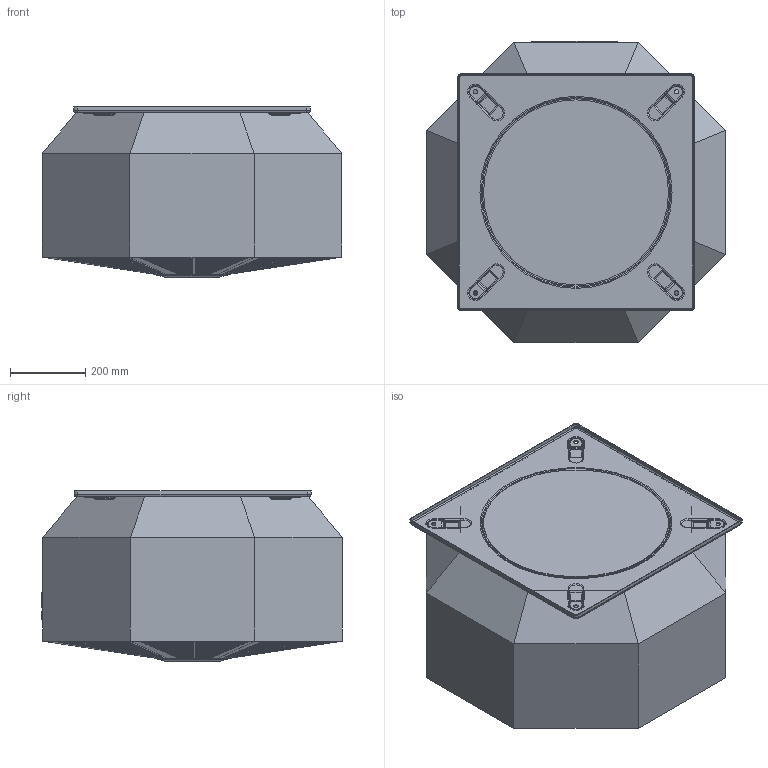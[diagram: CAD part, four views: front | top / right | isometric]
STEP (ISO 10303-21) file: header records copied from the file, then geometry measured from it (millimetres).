
FILE_DESCRIPTION(/* description */ (''),/* implementation_level */ '2;1');
FILE_NAME(/* name */ 'D:\Piotr - Dokumenty\Modele uproszczone\RFV\RFV X-450\komplet\RFV_X_450_X.stp',/* time_stamp */ '2021-03-17T12:28:13+01:00',/* author */ ('Piotr.Nowotniak'),/* organization */ (''),/* preprocessor_version */ 'ST-DEVELOPER v18',/* originating_system */ 'Autodesk Inventor 2020',/* authorisation */ '');
FILE_SCHEMA (('AUTOMOTIVE_DESIGN { 1 0 10303 214 3 1 1 }'));
Products named in the file (1): RFV_RFV_EC_X_450_X
Bounding box: 797 x 800 x 452 mm (x, y, z)
Volume: 199564002.3 mm3; surface area: 2814803.1 mm2
Topology: 1 solids, 1 shells, 4268 faces, 11383 edges, 7543 vertices
Faces by surface type: plane 2235, cylinder 1589, bspline 422, torus 21, cone 1
Full cylindrical faces by diameter (mm): 12 x4, 491.856 x1
Entity records: 142170 total; most frequent: CARTESIAN_POINT 31438, ORIENTED_EDGE 22766, DIRECTION 21531, EDGE_CURVE 11383, VERTEX_POINT 7543, LINE 7293, VECTOR 7293, AXIS2_PLACEMENT_3D 7119
